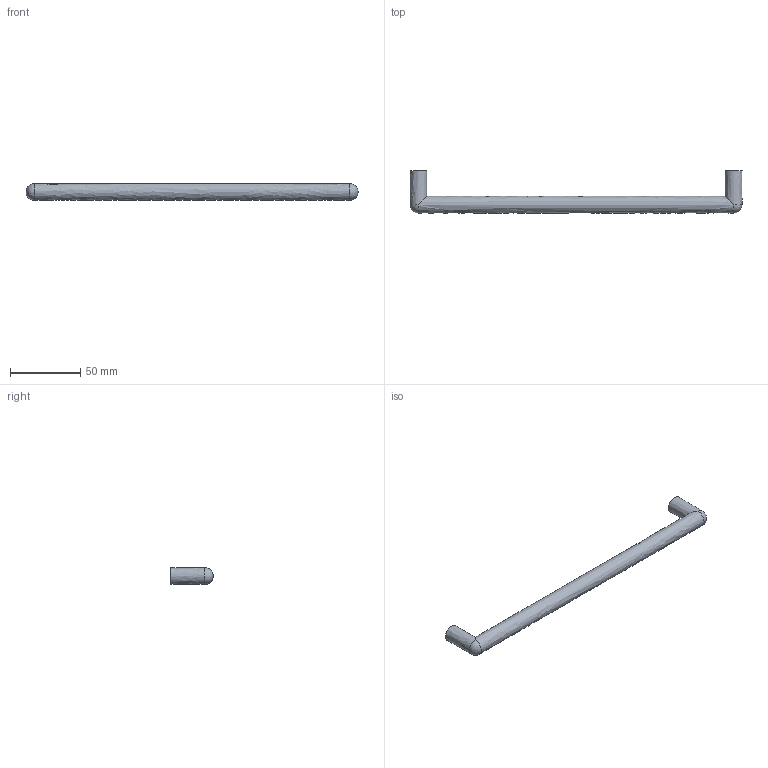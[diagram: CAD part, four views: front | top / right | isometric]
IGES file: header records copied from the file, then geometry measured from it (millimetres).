
Start section: Data from Parasolid IGES Translator 15.0.47, Copyright(c) 2006 Siemens P LM Software. All Rights Reserved.
Global section: file name: 9203963.igs; native system:  By UGS Corp.; preprocessor: XPlus GENERIC/IGES 3.0; author: Noname; organization: Noname; date: 20151215.160406; units: millimetre
Bounding box: 236 x 30 x 12 mm (x, y, z)
Surface area: 10732.7 mm2 (no closed solid volume)
Topology: 0 solids, 0 shells, 11 faces, 38 edges, 30 vertices
Faces by surface type: revolution 7, extrusion 4
